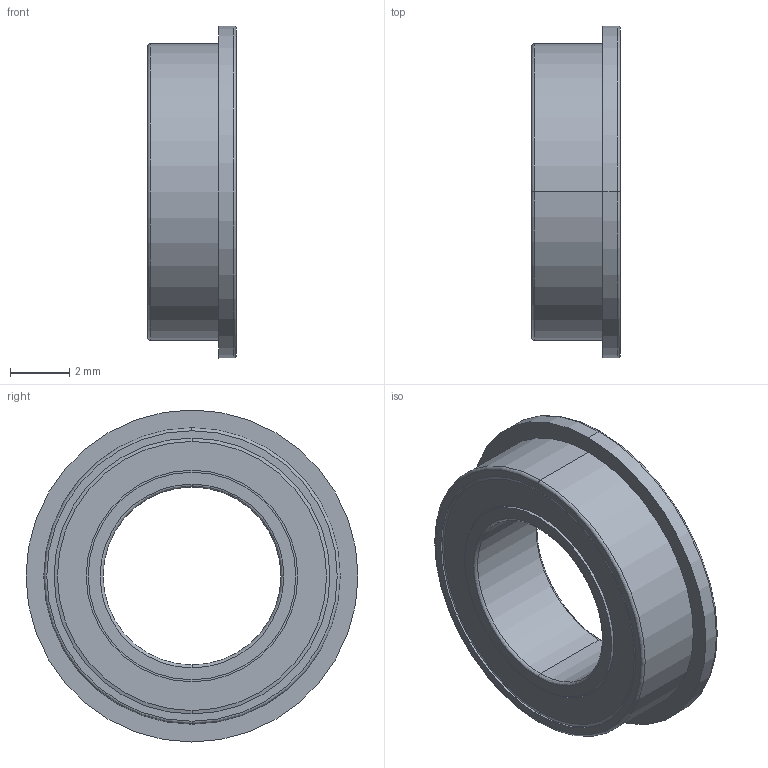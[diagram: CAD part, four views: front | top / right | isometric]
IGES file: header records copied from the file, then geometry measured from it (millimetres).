
Start section:  PTC IGES file: bearing_mf106zz.igs
Global section: file name: bearing_mf106zz.igs; native system: Pro/ENGINEER by Parametric Technology Corporation; preprocessor: 2006170; author: bono; organization: Unknown; date: 20061227.163733; units: millimetre
Bounding box: 3 x 11.2 x 11.2 mm (x, y, z)
Surface area: 558 mm2 (no closed solid volume)
Topology: 0 solids, 0 shells, 125 faces, 510 edges, 442 vertices
Faces by surface type: revolution 114, bspline 11
